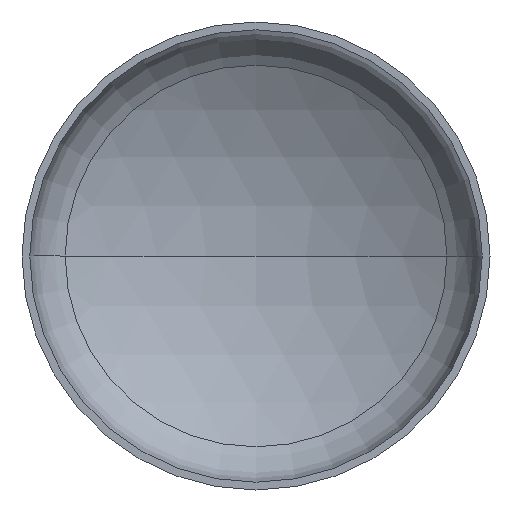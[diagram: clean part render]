
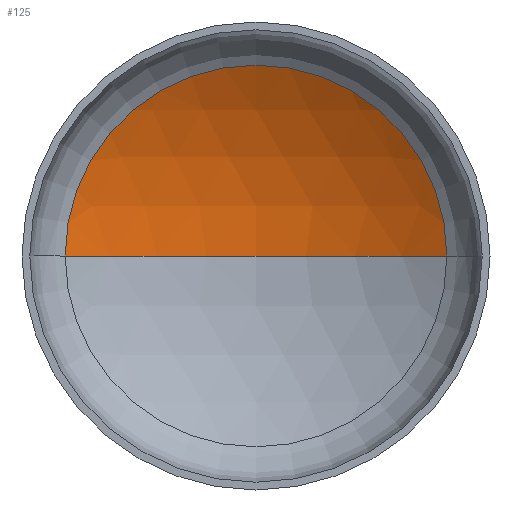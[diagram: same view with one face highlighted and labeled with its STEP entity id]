
A CAD part, front view. The second image highlights one B-rep face of the part: STEP entity #125.
In plain terms, the highlighted spherical face has radius 2880 mm.
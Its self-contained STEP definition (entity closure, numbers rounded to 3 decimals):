
#10 = CARTESIAN_POINT ( 'NONE',  ( 1467.871, 597.503, 0. ) ) ;
#21 = AXIS2_PLACEMENT_3D ( 'NONE', #95, #331, #129 ) ;
#24 = AXIS2_PLACEMENT_3D ( 'NONE', #386, #221, #411 ) ;
#26 = AXIS2_PLACEMENT_3D ( 'NONE', #151, #152, #133 ) ;
#27 = AXIS2_PLACEMENT_3D ( 'NONE', #273, #172, #166 ) ;
#34 = SPHERICAL_SURFACE ( 'NONE', #21, 2880. ) ;
#54 = EDGE_CURVE ( 'NONE', #403, #111, #225, .T. ) ;
#61 = EDGE_CURVE ( 'NONE', #114, #403, #139, .T. ) ;
#67 = EDGE_CURVE ( 'NONE', #114, #111, #362, .T. ) ;
#95 = CARTESIAN_POINT ( 'NONE',  ( 0., -1880.35, 0. ) ) ;
#111 = VERTEX_POINT ( 'NONE', #160 ) ;
#114 = VERTEX_POINT ( 'NONE', #358 ) ;
#125 = ADVANCED_FACE ( 'NONE', ( #345 ), #34, .F. ) ;
#129 = DIRECTION ( 'NONE',  ( -1., 0., 0. ) ) ;
#133 = DIRECTION ( 'NONE',  ( -1., 0., 0. ) ) ;
#139 = CIRCLE ( 'NONE', #26, 2880. ) ;
#151 = CARTESIAN_POINT ( 'NONE',  ( 0., -1880.35, 0. ) ) ;
#152 = DIRECTION ( 'NONE',  ( 0., 0., -1. ) ) ;
#160 = CARTESIAN_POINT ( 'NONE',  ( -1467.871, 597.503, 0. ) ) ;
#166 = DIRECTION ( 'NONE',  ( 1., 0., 0. ) ) ;
#172 = DIRECTION ( 'NONE',  ( 0., -1., 0. ) ) ;
#221 = DIRECTION ( 'NONE',  ( 0., 0., 1. ) ) ;
#225 = CIRCLE ( 'NONE', #27, 1467.871 ) ;
#273 = CARTESIAN_POINT ( 'NONE',  ( 0., 597.503, 0. ) ) ;
#296 = ORIENTED_EDGE ( 'NONE', *, *, #54, .T. ) ;
#331 = DIRECTION ( 'NONE',  ( 0., 0., -1. ) ) ;
#345 = FACE_OUTER_BOUND ( 'NONE', #405, .T. ) ;
#348 = ORIENTED_EDGE ( 'NONE', *, *, #61, .T. ) ;
#358 = CARTESIAN_POINT ( 'NONE',  ( 0., 999.65, 0. ) ) ;
#362 = CIRCLE ( 'NONE', #24, 2880. ) ;
#386 = CARTESIAN_POINT ( 'NONE',  ( 0., -1880.35, 0. ) ) ;
#388 = ORIENTED_EDGE ( 'NONE', *, *, #67, .F. ) ;
#403 = VERTEX_POINT ( 'NONE', #10 ) ;
#405 = EDGE_LOOP ( 'NONE', ( #388, #348, #296 ) ) ;
#411 = DIRECTION ( 'NONE',  ( 1., 0., 0. ) ) ;
